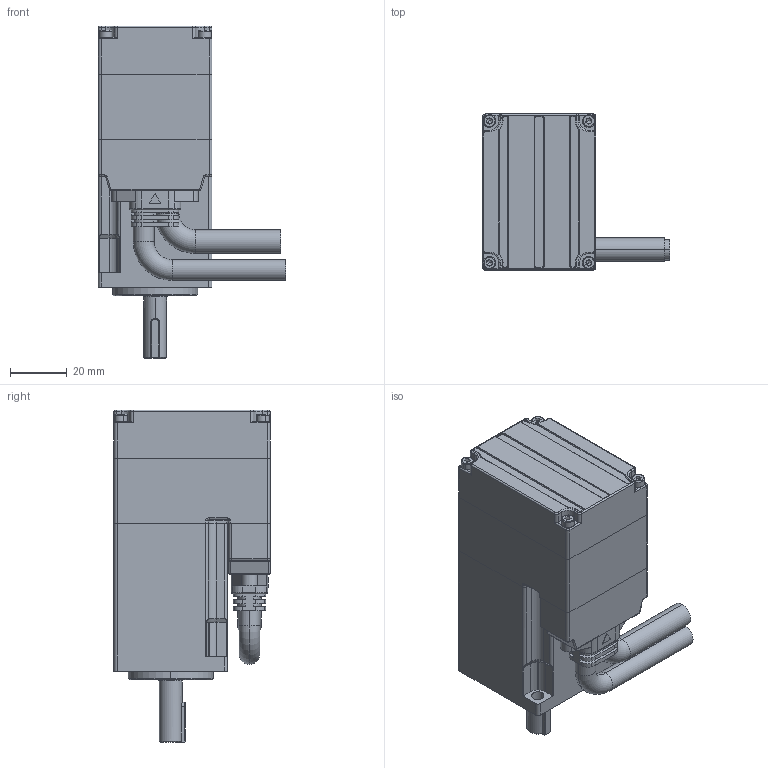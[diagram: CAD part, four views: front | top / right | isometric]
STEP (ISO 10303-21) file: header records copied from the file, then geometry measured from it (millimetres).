
FILE_DESCRIPTION((''),'2;1');
FILE_NAME('ISMK40-DMAK-AA-000','2025-02-10T18:02:09',('RD0060'),(''),'CREO PARAMETRIC BY PTC INC, 2016510','CREO PARAMETRIC BY PTC INC, 2016510','');
FILE_SCHEMA(('CONFIG_CONTROL_DESIGN'));
Length unit declared in the file: millimetre
Products named in the file (1): ISMK40-DMAK-AA-000
Bounding box: 65.95 x 55 x 117 mm (x, y, z)
Surface area: 31925.3 mm2 (no closed solid volume)
Topology: 0 solids, 20 shells, 504 faces, 1419 edges, 916 vertices
Faces by surface type: cylinder 205, plane 157, torus 86, bspline 26, cone 22, sphere 8
Entity records: 17298 total; most frequent: CARTESIAN_POINT 4111, DIRECTION 2989, ORIENTED_EDGE 2517, EDGE_CURVE 1403, AXIS2_PLACEMENT_3D 1160, VERTEX_POINT 916, CIRCLE 682, VECTOR 669
